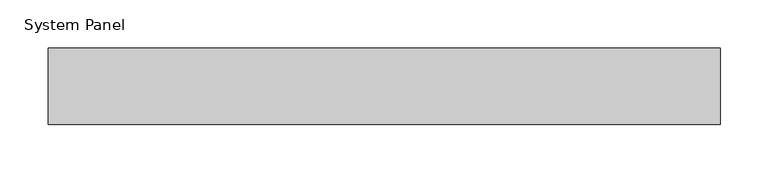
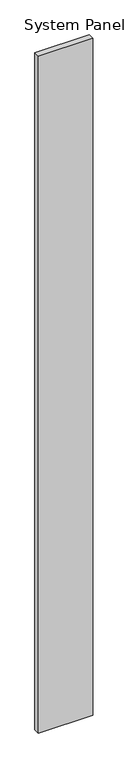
"""IFC4 building model written with IfcOpenShell, lengths in millimetres: plate geometry, System Panel : MetecnoSpan_80mm_Vertical_Plain_Surfmist."""

import ifcopenshell
import ifcopenshell.guid

model = None  # the IFC model being written
_history = None  # IfcOwnerHistory: only IFC2X3 demands one
_inside = {}  # id of a spatial element -> (the spatial element, [elements in it])
_under = {}  # id of a project, library or spatial element -> (it, [spatial elements below it])
_declared = {}  # id of a project -> (the project, [libraries it declares])
_typed = {}  # id of a type object -> (the type object, [elements of that type])
_made_of = {}  # id of a material, layer set ... -> (it, [elements and type objects made of it])


def new_model(schema):
    """Start an empty IFC model of exactly this schema.

    Asked for "IFC4X3", IfcOpenShell would pick the latest addendum, in which some entities
    have other attributes; the version numbers below select the first issue.
    IFC2X3 requires an IfcOwnerHistory on every rooted entity: one is made here for all.
    """
    global model, _history
    if schema == "IFC4X3":
        model = ifcopenshell.file(schema_version=(4, 3, 0, 0))
    else:
        model = ifcopenshell.file(schema=schema)
    _inside.clear()
    _under.clear()
    _declared.clear()
    _typed.clear()
    _made_of.clear()
    _history = None
    if model.schema == "IFC2X3":
        org = make("IfcOrganization", Name="unknown")
        user = make(
            "IfcPersonAndOrganization",
            ThePerson=make("IfcPerson", FamilyName="unknown"),
            TheOrganization=org,
        )
        app = make(
            "IfcApplication",
            ApplicationDeveloper=org,
            Version="unknown",
            ApplicationFullName="unknown",
            ApplicationIdentifier="unknown",
        )
        _history = make(
            "IfcOwnerHistory",
            OwningUser=user,
            OwningApplication=app,
            ChangeAction="ADDED",
            CreationDate=0,
        )
    return model


def make(cls, **values):
    """One entity of the class cls with the attributes given. An attribute that is None is left unset."""
    return model.create_entity(
        cls, **{name: value for name, value in values.items() if value is not None}
    )


def rooted(cls, **values):
    """An entity with a GlobalId (a new one), such as an element, a storey or a relation."""
    return make(cls, GlobalId=ifcopenshell.guid.new(), OwnerHistory=_history, **values)


def si_unit(unit_type, name, prefix=None):
    """IfcSIUnit, for example si_unit("LENGTHUNIT", "METRE", prefix="MILLI")."""
    return make("IfcSIUnit", UnitType=unit_type, Prefix=prefix, Name=name)


def assignment(units):
    """IfcUnitAssignment: the units of a project."""
    return None if units is None else make("IfcUnitAssignment", Units=units)


def point(xyz):
    """IfcCartesianPoint."""
    return None if xyz is None else make("IfcCartesianPoint", Coordinates=xyz)


def direction(xyz):
    """IfcDirection."""
    return None if xyz is None else make("IfcDirection", DirectionRatios=xyz)


def frame(location, z_axis=None, x_axis=None):
    """IfcAxis2Placement3D, a coordinate frame: its origin and axes. An axis left out is left unset."""
    return make(
        "IfcAxis2Placement3D",
        Location=point(location),
        Axis=direction(z_axis),
        RefDirection=direction(x_axis),
    )


def origin():
    """The frame at (0, 0, 0) with its axes left unset."""
    return frame((0.0, 0.0, 0.0))


def origin_with_axes():
    """The frame at (0, 0, 0) with the z axis (0, 0, 1) and the x axis (1, 0, 0) written out."""
    return frame((0.0, 0.0, 0.0), z_axis=(0.0, 0.0, 1.0), x_axis=(1.0, 0.0, 0.0))


def place(relative_to, where):
    """IfcLocalPlacement: puts the frame where relative to a parent placement (None: the world)."""
    return make(
        "IfcLocalPlacement", PlacementRelTo=relative_to, RelativePlacement=where
    )


def context(
    kind, dimensions, precision=None, world=None, true_north=None, identifier=None
):
    """IfcGeometricRepresentationContext, for example the 3D "Model" context."""
    return make(
        "IfcGeometricRepresentationContext",
        ContextIdentifier=identifier,
        ContextType=kind,
        CoordinateSpaceDimension=dimensions,
        Precision=precision,
        WorldCoordinateSystem=world,
        TrueNorth=true_north,
    )


def project(units=None, contexts=None):
    """IfcProject with its units and contexts."""
    return rooted(
        "IfcProject",
        Name="project",
        RepresentationContexts=contexts,
        UnitsInContext=assignment(units),
    )


def spatial(cls, under=None, at=None, **own):
    """A site, building, storey or space (cls), placed at a placement, below another one or the project."""
    s = rooted(cls, ObjectPlacement=at, **own)
    if under is not None:
        _under.setdefault(under.id(), (under, []))[1].append(s)
    return s


def polyline(points):
    """IfcPolyline through the points."""
    return make("IfcPolyline", Points=[point(p) for p in points])


def outline(outer, holes=None, kind="AREA"):
    """IfcArbitraryClosedProfileDef: a profile drawn as a closed curve; with holes, ...WithVoids."""
    if holes is None:
        return make("IfcArbitraryClosedProfileDef", ProfileType=kind, OuterCurve=outer)
    return make(
        "IfcArbitraryProfileDefWithVoids",
        ProfileType=kind,
        OuterCurve=outer,
        InnerCurves=holes,
    )


def extrude(swept, where, along, depth):
    """IfcExtrudedAreaSolid: the profile swept, set in the frame where, extruded along a direction by depth."""
    return make(
        "IfcExtrudedAreaSolid",
        SweptArea=swept,
        Position=where,
        ExtrudedDirection=direction(along),
        Depth=depth,
    )


def shape(context_of_items, identifier, shape_type, items):
    """IfcShapeRepresentation: the items that make up one representation, for example the "Body"."""
    return make(
        "IfcShapeRepresentation",
        ContextOfItems=context_of_items,
        RepresentationIdentifier=identifier,
        RepresentationType=shape_type,
        Items=items,
    )


def source(mapping_origin, context_of_items, identifier, shape_type, items):
    """IfcRepresentationMap: a shape defined once, which mapped items show again and again."""
    return make(
        "IfcRepresentationMap",
        MappingOrigin=mapping_origin,
        MappedRepresentation=shape(context_of_items, identifier, shape_type, items),
    )


def transform(
    local_origin,
    x_axis=None,
    y_axis=None,
    z_axis=None,
    scale=None,
    scale2=None,
    scale3=None,
    uniform=True,
):
    """IfcCartesianTransformationOperator3D, or its non-uniform kind. x_axis, y_axis, z_axis: its Axis1, 2, 3."""
    if uniform:
        return make(
            "IfcCartesianTransformationOperator3D",
            Axis1=direction(x_axis),
            Axis2=direction(y_axis),
            LocalOrigin=point(local_origin),
            Scale=scale,
            Axis3=direction(z_axis),
        )
    return make(
        "IfcCartesianTransformationOperator3DnonUniform",
        Axis1=direction(x_axis),
        Axis2=direction(y_axis),
        LocalOrigin=point(local_origin),
        Scale=scale,
        Axis3=direction(z_axis),
        Scale2=scale2,
        Scale3=scale3,
    )


def mapped(mapping_source, mapping_target):
    """IfcMappedItem: shows the shape of a source again, moved by a transform."""
    return make(
        "IfcMappedItem", MappingSource=mapping_source, MappingTarget=mapping_target
    )


def made_of(thing, what):
    """Note that an element or type object is made of a material, layer set ...; save() writes the relation."""
    if what is not None:
        _made_of.setdefault(what.id(), (what, []))[1].append(thing)
    return thing


def element(
    cls,
    number,
    at=None,
    inside=None,
    cuts=None,
    type_object=None,
    material=None,
    context=None,
    identifier="Body",
    shape_type=None,
    held_by="IfcProductDefinitionShape",
    body=None,
    shapes=None,
    **own,
):
    """One element of the class cls, such as IfcWall. Its Tag is "e" and its number.

    at: its placement. inside: the storey or other place that contains it. cuts: it is an
    opening in that element (IfcRelVoidsElement). A single representation is given by context,
    identifier, shape_type and body (its items); several are given by shapes. held_by: the class
    of the entity that holds the representations. save() writes the other relations.
    """
    e = rooted(cls, Tag="e%d" % number, ObjectPlacement=at, **own)
    if body is not None:
        shapes = [shape(context, identifier, shape_type, body)]
    if shapes is not None:
        e.Representation = make(held_by, Representations=shapes)
    if inside is not None:
        _inside.setdefault(inside.id(), (inside, []))[1].append(e)
    if cuts is not None:
        rooted(
            "IfcRelVoidsElement", RelatingBuildingElement=cuts, RelatedOpeningElement=e
        )
    if type_object is not None:
        _typed.setdefault(type_object.id(), (type_object, []))[1].append(e)
    return made_of(e, material)


def aggregate(whole, parts):
    """IfcRelAggregates: a whole, such as a stair, and the parts it consists of."""
    return rooted("IfcRelAggregates", RelatingObject=whole, RelatedObjects=parts)


def save(model, path):
    """Write the relations noted so far, then the file.

    IfcRelAggregates (storeys below a building ...), IfcRelContainedInSpatialStructure (elements
    in a storey), IfcRelDefinesByType, IfcRelAssociatesMaterial and IfcRelDeclares: one each for
    every whole, place, type object, material and project.
    """
    for whole, parts in _under.values():
        aggregate(whole, parts)
    for where, things in _inside.values():
        rooted(
            "IfcRelContainedInSpatialStructure",
            RelatedElements=things,
            RelatingStructure=where,
        )
    for kind, things in _typed.values():
        rooted("IfcRelDefinesByType", RelatedObjects=things, RelatingType=kind)
    for what, things in _made_of.values():
        rooted("IfcRelAssociatesMaterial", RelatedObjects=things, RelatingMaterial=what)
    for by, libraries in _declared.values():
        rooted("IfcRelDeclares", RelatingContext=by, RelatedDefinitions=libraries)
    model.write(path)


def system_panel_f6465c84(model_context):
    return source(origin(), model_context, "Body", "SweptSolid", [
        extrude(outline(polyline([(350.0, -80.0), (-350.0, -80.0), (-350.0, 0.0), (350.0, 0.0), (350.0, -80.0)])), origin_with_axes(), (0.0, 0.0, 1.0), 9240.3821682),
    ])


if __name__ == "__main__":
    model = new_model("IFC4")
    model_context = context("Model", 3, world=origin())
    ifc_project = project(units=[si_unit("LENGTHUNIT", "METRE", prefix="MILLI")], contexts=[model_context])
    site = spatial("IfcSite", under=ifc_project)
    building = spatial("IfcBuilding", under=site)
    placement = place(None, origin())
    system_panel_shape = system_panel_f6465c84(model_context)
    element("IfcPlate", 1, ObjectType="System Panel : MetecnoSpan_80mm_Vertical_Plain_Surfmist", at=placement, inside=building, context=model_context, shape_type="MappedRepresentation", body=[
        mapped(system_panel_shape, transform((0.0, 0.0, 0.0), x_axis=(1.0, 0.0, 0.0), y_axis=(0.0, 1.0, 0.0), z_axis=(0.0, 0.0, 1.0))),
    ])
    save(model, "model.ifc")
